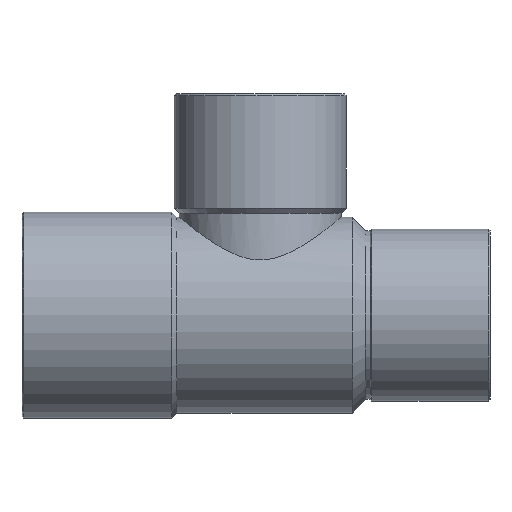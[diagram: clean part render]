
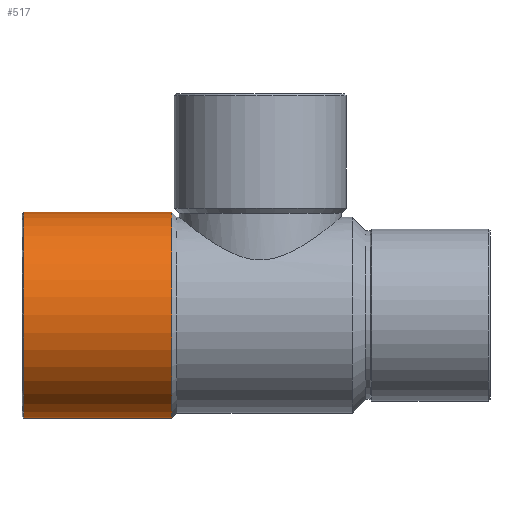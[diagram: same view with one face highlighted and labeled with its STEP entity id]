
A CAD part, top view. The second image highlights one B-rep face of the part: STEP entity #517.
In plain terms, the highlighted cylindrical face has radius 12.1 mm (diameter 24.2 mm), a partial arc.
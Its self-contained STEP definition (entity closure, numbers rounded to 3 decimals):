
#286=CARTESIAN_POINT('',(-10.397,12.1,0.0));
#287=VERTEX_POINT('',#286);
#294=CARTESIAN_POINT('',(-10.397,-12.1,0.));
#295=VERTEX_POINT('',#294);
#296=CARTESIAN_POINT('',(-10.397,0.0,0.0));
#297=DIRECTION('',(1.0,0.0,0.0));
#298=DIRECTION('',(0.0,1.0,0.0));
#299=AXIS2_PLACEMENT_3D('',#296,#297,#298);
#300=CIRCLE('',#299,12.1);
#301=EDGE_CURVE('',#287,#295,#300,.T.);
#486=CARTESIAN_POINT('',(-19.198,0.0,0.0));
#487=DIRECTION('',(1.0,0.0,0.0));
#488=DIRECTION('',(0.0,1.0,0.0));
#489=AXIS2_PLACEMENT_3D('',#486,#487,#488);
#490=CYLINDRICAL_SURFACE('',#489,12.1);
#491=CARTESIAN_POINT('',(-27.8,12.1,0.));
#492=VERTEX_POINT('',#491);
#493=CARTESIAN_POINT('',(-27.8,12.1,0.));
#494=DIRECTION('',(1.0,0.0,0.0));
#495=VECTOR('',#494,17.403);
#496=LINE('',#493,#495);
#497=EDGE_CURVE('',#492,#287,#496,.T.);
#498=ORIENTED_EDGE('',*,*,#497,.F.);
#499=CARTESIAN_POINT('',(-27.8,-12.1,0.));
#500=VERTEX_POINT('',#499);
#501=CARTESIAN_POINT('',(-27.8,0.0,0.0));
#502=DIRECTION('',(-1.0,0.0,0.0));
#503=DIRECTION('',(0.0,-1.0,0.0));
#504=AXIS2_PLACEMENT_3D('',#501,#502,#503);
#505=CIRCLE('',#504,12.1);
#506=EDGE_CURVE('',#500,#492,#505,.T.);
#507=ORIENTED_EDGE('',*,*,#506,.F.);
#508=CARTESIAN_POINT('',(-10.397,-12.1,0.));
#509=DIRECTION('',(-1.0,0.0,0.0));
#510=VECTOR('',#509,17.403);
#511=LINE('',#508,#510);
#512=EDGE_CURVE('',#295,#500,#511,.T.);
#513=ORIENTED_EDGE('',*,*,#512,.F.);
#514=ORIENTED_EDGE('',*,*,#301,.F.);
#515=EDGE_LOOP('',(#498,#507,#513,#514));
#516=FACE_OUTER_BOUND('',#515,.T.);
#517=ADVANCED_FACE('',(#516),#490,.T.);
